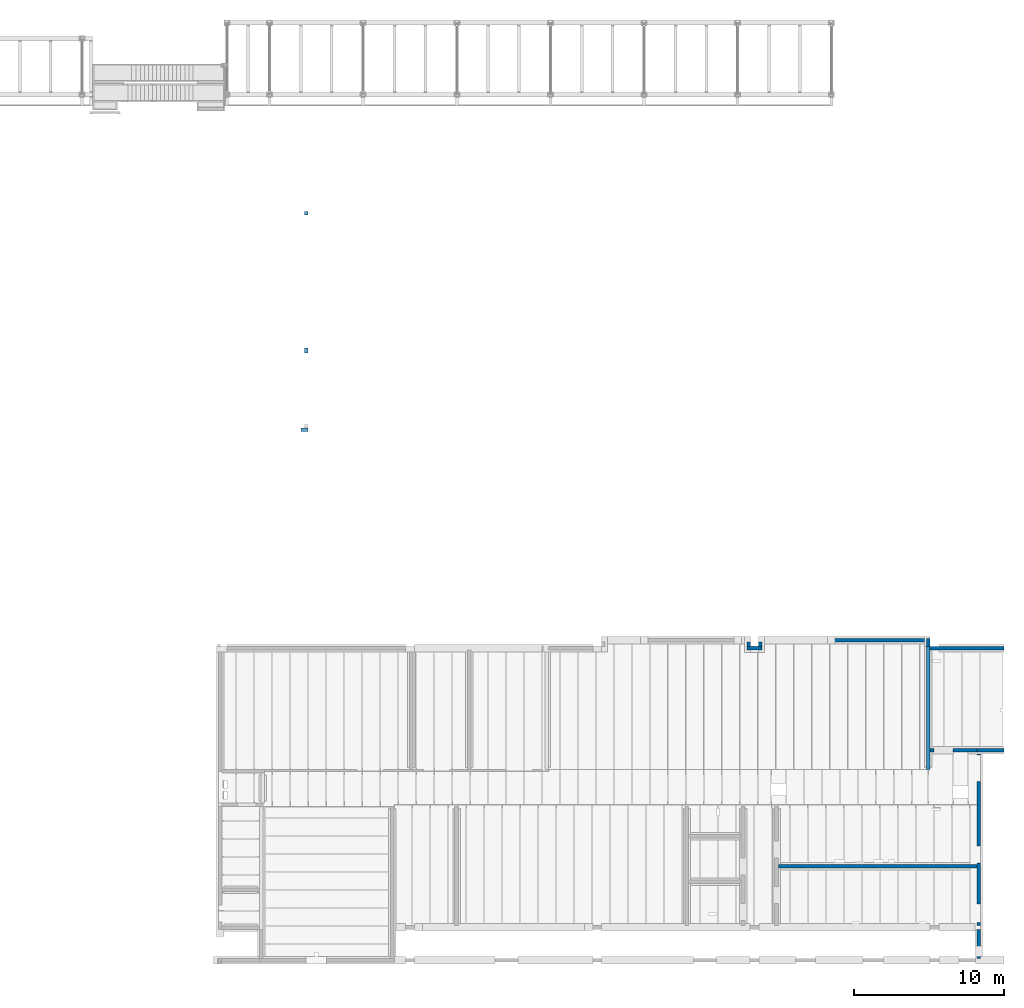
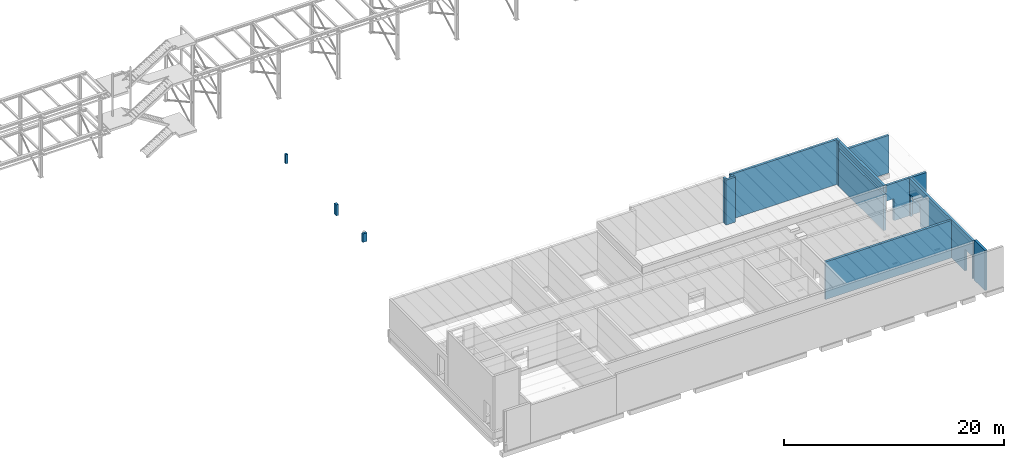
# One storey, part 12 of 24: 16 walls, 4 openings.
"""IFC2X3 building model written with IfcOpenShell, lengths in metres."""

from ifc_helpers import new_model, entity, si_unit, converted_unit, derived_unit, frame, frame_2d, origin, origin_with_axes, place, context, subcontext, project, spatial, polyline, rectangle, outline, extrude, material, layer, layer_set, layer_usage, element, save


model = new_model("IFC2X3")

# Units and contexts
model_context = context("Model", 3, precision=1e-05, world=origin())
body_context = subcontext(model_context, "Body", "Model", "MODEL_VIEW")
ifc_project = project(units=[si_unit("LENGTHUNIT", "METRE"), si_unit("AREAUNIT", "SQUARE_METRE"), si_unit("VOLUMEUNIT", "CUBIC_METRE"), si_unit("MASSUNIT", "GRAM", prefix="KILO"), converted_unit("PLANEANGLEUNIT", "DEGREE", entity("IfcPlaneAngleMeasure", 0.0174532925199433), si_unit("PLANEANGLEUNIT", "RADIAN"), dimensions=[0, 0, 0, 0, 0, 0, 0]), derived_unit("THERMALTRANSMITTANCEUNIT", [(si_unit("POWERUNIT", "WATT"), 1), (si_unit("THERMODYNAMICTEMPERATUREUNIT", "KELVIN"), -1), (si_unit("LENGTHUNIT", "METRE"), -2)]), derived_unit("VOLUMETRICFLOWRATEUNIT", [(si_unit("LENGTHUNIT", "METRE"), 3), (converted_unit("TIMEUNIT", "hour", entity("IfcTimeMeasure", 3600.0), si_unit("TIMEUNIT", "SECOND"), dimensions=[0, 0, 1, 0, 0, 0, 0]), -1), (si_unit("LENGTHUNIT", "METRE"), -1)])], contexts=[model_context])

# Site, building, storey
site_placement = place(None, origin())
site = spatial("IfcSite", under=ifc_project, at=site_placement, Name="TWP_Speiseverteilzentrum SBW VZ II", CompositionType="ELEMENT")
building_placement = place(site_placement, origin())
building = spatial("IfcBuilding", under=site, at=building_placement, Name="Speiseverteilzentrum SBW VZ II", CompositionType="ELEMENT")
storey_placement = place(building_placement, frame((0.0, 0.0, 0.6957)))
storey = spatial("IfcBuildingStorey", under=building, at=storey_placement, Name="EG_Technik_FFB", CompositionType="ELEMENT", Elevation=0.6957)

# Wall, openings
ifc_material_1 = material(Name="KS-XL-16-1.8/DM")
ifc_layer_1 = layer(ifc_material_1, 0.24)
ifc_layer_set_1 = layer_set([ifc_layer_1], Name="HI_WAN_MWK_0,240_xxx")
ifc_layer_usage_1 = layer_usage(ifc_layer_set_1, "AXIS2", "POSITIVE", -0.24)
wall_1_placement = place(storey_placement, frame((119.72, 43.5849999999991, -0.19), z_axis=(0.0, 0.0, 1.0), x_axis=(0.0, -1.0, 0.0)))
wall_1 = element("IfcWallStandardCase", 1, at=wall_1_placement, inside=storey, material=ifc_layer_usage_1, Name="HI_WAN_MWK_0,240_xxx", context=body_context, shape_type="SweptSolid", body=[
    extrude(rectangle(XDim=11.575000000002, YDim=0.24, at=frame_2d((5.787500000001, 0.12), x_axis=(1.0, 0.0))), origin_with_axes(), (0.0, 0.0, 1.0), 4.19),
])
opening_1_placement = place(wall_1_placement, frame((1.95999999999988, 0.24, 0.0), z_axis=(0.0, -1.0, 0.0), x_axis=(0.0, 0.0, 1.0)))
element("IfcOpeningElement", 2, at=opening_1_placement, cuts=wall_1, Name="Mauerwerkswand", ObjectType="SOLIDWALL", context=body_context, shape_type="SweptSolid", body=[
    extrude(outline(polyline([(2.45, 1.76), (2.45, 0.0), (0.0, 0.0), (0.0, 1.76), (2.45, 1.76)])), origin_with_axes(), (0.0, 0.0, 1.0), 0.24),
])
opening_2_placement = place(wall_1_placement, frame((10.115000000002, 0.0, 0.0), z_axis=(0.0, 1.0, 0.0), x_axis=(0.0, 0.0, 1.0)))
element("IfcOpeningElement", 3, at=opening_2_placement, cuts=wall_1, Name="Mauerwerkswand", ObjectType="SOLIDWALL", context=body_context, shape_type="SweptSolid", body=[
    extrude(outline(polyline([(2.45, 1.26), (2.45, 0.0), (0.0, 0.0), (0.0, 1.26), (2.45, 1.26)])), origin_with_axes(), (0.0, 0.0, 1.0), 0.24),
])
opening_3_placement = place(wall_1_placement, frame((6.2450000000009, 0.0, 0.0), z_axis=(0.0, 1.0, 0.0), x_axis=(0.0, 0.0, 1.0)))
element("IfcOpeningElement", 4, at=opening_3_placement, cuts=wall_1, Name="Mauerwerkswand", ObjectType="SOLIDWALL", context=body_context, shape_type="SweptSolid", body=[
    extrude(outline(polyline([(2.45, 1.13500000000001), (2.45, 0.0), (0.0, 0.0), (0.0, 1.13500000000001), (2.45, 1.13500000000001)])), origin_with_axes(), (0.0, 0.0, 1.0), 0.24),
])

# Walls
ifc_material_2 = material(Name="KS-XL-16-1.8/DM")
ifc_layer_2 = layer(ifc_material_2, 0.24)
ifc_layer_set_2 = layer_set([ifc_layer_2], Name="HI_WAN_MWK_0,240_xxx")
ifc_layer_usage_2 = layer_usage(ifc_layer_set_2, "AXIS2", "POSITIVE", -0.24)
wall_2_placement = place(storey_placement, frame((105.384999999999, 50.6299999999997, 0.0), z_axis=(0.0, 0.0, 1.0), x_axis=(-1.0, 0.0, 0.0)))
element("IfcWallStandardCase", 5, at=wall_2_placement, inside=storey, material=ifc_layer_usage_2, Name="HI_WAN_MWK_0,240_xxx", context=body_context, shape_type="SweptSolid", body=[
    extrude(rectangle(XDim=1.0199999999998, YDim=0.24, at=frame_2d((0.509999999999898, 0.12), x_axis=(1.0, 0.0))), origin_with_axes(), (0.0, 0.0, 1.0), 5.0),
])
ifc_material_3 = material(Name="KS-XL-16-1.8/DM")
ifc_layer_3 = layer(ifc_material_3, 0.24)
ifc_layer_set_3 = layer_set([ifc_layer_3], Name="HI_WAN_MWK_0,240_xxx")
ifc_layer_usage_3 = layer_usage(ifc_layer_set_3, "AXIS2", "POSITIVE", -0.24)
wall_3_placement = place(storey_placement, frame((121.520000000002, 50.6299999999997, -0.19), z_axis=(0.0, 0.0, 1.0), x_axis=(-1.0, 0.0, 0.0)))
element("IfcWallStandardCase", 6, at=wall_3_placement, inside=storey, material=ifc_layer_usage_3, Name="HI_WAN_MWK_0,240_xxx", context=body_context, shape_type="SweptSolid", body=[
    extrude(rectangle(XDim=4.93000000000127, YDim=0.24, at=frame_2d((2.46500000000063, 0.12), x_axis=(1.0, 0.0))), origin_with_axes(), (0.0, 0.0, 1.0), 4.19),
])
ifc_material_4 = material(Name="KS-XL-16-1.8/DM")
ifc_layer_4 = layer(ifc_material_4, 0.24)
ifc_layer_set_4 = layer_set([ifc_layer_4], Name="HI_WAN_MWK_0,240_xxx")
ifc_layer_usage_4 = layer_usage(ifc_layer_set_4, "AXIS2", "POSITIVE", -0.24)
wall_4_placement = place(storey_placement, frame((116.35, 51.1799999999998, 0.0), z_axis=(0.0, 0.0, 1.0), x_axis=(-1.0, -6.49349184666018e-16, 0.0)))
element("IfcWallStandardCase", 7, at=wall_4_placement, inside=storey, material=ifc_layer_usage_4, Name="HI_WAN_MWK_0,240_xxx", context=body_context, shape_type="SweptSolid", body=[
    extrude(rectangle(XDim=11.2050000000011, YDim=0.24, at=frame_2d((5.60250000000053, 0.12), x_axis=(1.0, 0.0))), origin_with_axes(), (0.0, 0.0, 1.0), 5.0),
])
ifc_material_5 = material(Name="KS-XL-16-1.8/DM")
ifc_layer_5 = layer(ifc_material_5, 0.239999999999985)
ifc_layer_set_5 = layer_set([ifc_layer_5], Name="HI_WAN_MWK_0,240_xxx")
ifc_layer_usage_5 = layer_usage(ifc_layer_set_5, "AXIS2", "POSITIVE", -0.24)
wall_5_placement = place(storey_placement, frame((104.364999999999, 50.94, 0.0), z_axis=(0.0, 0.0, 1.0), x_axis=(-3.2859163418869e-13, -1.0, 0.0)))
element("IfcWallStandardCase", 8, at=wall_5_placement, inside=storey, material=ifc_layer_usage_5, Name="HI_WAN_MWK_0,240_xxx", context=body_context, shape_type="SweptSolid", body=[
    extrude(rectangle(XDim=0.310000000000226, YDim=0.239999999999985, at=frame_2d((0.155000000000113, 0.119999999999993), x_axis=(1.0, 0.0))), origin_with_axes(), (0.0, 0.0, 1.0), 5.0),
])
ifc_material_6 = material(Name="KS-XL-16-1.8/DM")
ifc_layer_6 = layer(ifc_material_6, 0.239999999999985)
ifc_layer_set_6 = layer_set([ifc_layer_6], Name="HI_WAN_MWK_0,240_xxx")
ifc_layer_usage_6 = layer_usage(ifc_layer_set_6, "AXIS2", "POSITIVE", -0.24)
wall_6_placement = place(storey_placement, frame((105.144999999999, 50.94, 0.0), z_axis=(0.0, 0.0, 1.0), x_axis=(-3.2859163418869e-13, -1.0, 0.0)))
element("IfcWallStandardCase", 9, at=wall_6_placement, inside=storey, material=ifc_layer_usage_6, Name="HI_WAN_MWK_0,240_xxx", context=body_context, shape_type="SweptSolid", body=[
    extrude(rectangle(XDim=0.310000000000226, YDim=0.239999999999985, at=frame_2d((0.155000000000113, 0.119999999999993), x_axis=(1.0, 0.0))), origin_with_axes(), (0.0, 0.0, 1.0), 5.0),
])
ifc_material_7 = material(Name="KS-XL-16-1.8/DM")
ifc_layer_7 = layer(ifc_material_7, 0.24)
ifc_layer_set_7 = layer_set([ifc_layer_7], Name="HI_WAN_MWK_0,240_xxx")
ifc_layer_usage_7 = layer_usage(ifc_layer_set_7, "AXIS2", "POSITIVE", -0.24)
wall_7_placement = place(storey_placement, frame((119.72, 36.1049999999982, -0.19), z_axis=(0.0, 0.0, 1.0), x_axis=(-1.0, 0.0, 0.0)))
element("IfcWallStandardCase", 10, at=wall_7_placement, inside=storey, material=ifc_layer_usage_7, Name="HI_WAN_MWK_0,240_xxx", context=body_context, shape_type="SweptSolid", body=[
    extrude(rectangle(XDim=13.26, YDim=0.24, at=frame_2d((6.63, 0.12), x_axis=(1.0, 0.0))), origin_with_axes(), (0.0, 0.0, 1.0), 4.17),
])
ifc_material_8 = material(Name="KS-XL-16-1.8/DM")
ifc_layer_8 = layer(ifc_material_8, 0.24)
ifc_layer_set_8 = layer_set([ifc_layer_8], Name="HI_WAN_MWK_0,240_xxx")
ifc_layer_usage_8 = layer_usage(ifc_layer_set_8, "AXIS2", "POSITIVE", -0.24)
wall_8_placement = place(storey_placement, frame((116.59, 42.4399999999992, 0.0), z_axis=(0.0, 0.0, 1.0), x_axis=(0.0, 1.0, 0.0)))
element("IfcWallStandardCase", 11, at=wall_8_placement, inside=storey, material=ifc_layer_usage_8, Name="HI_WAN_MWK_0,240_xxx", context=body_context, shape_type="SweptSolid", body=[
    extrude(rectangle(XDim=8.19000000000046, YDim=0.24, at=frame_2d((4.09500000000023, 0.12), x_axis=(1.0, 0.0))), origin_with_axes(), (0.0, 0.0, 1.0), 4.0),
])
ifc_material_9 = material(Name="KS-XL-16-1.8/DM")
ifc_layer_9 = layer(ifc_material_9, 0.240000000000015)
ifc_layer_set_9 = layer_set([ifc_layer_9], Name="HI_WAN_MWK_0,240_xxx")
ifc_layer_usage_9 = layer_usage(ifc_layer_set_9, "AXIS2", "POSITIVE", -0.24)
wall_9_placement = place(storey_placement, frame((116.35, 51.1799999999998, 0.0), z_axis=(0.0, 0.0, 1.0), x_axis=(0.0, -1.0, 0.0)))
element("IfcWallStandardCase", 12, at=wall_9_placement, inside=storey, material=ifc_layer_usage_9, Name="HI_WAN_MWK_0,240_xxx", context=body_context, shape_type="SweptSolid", body=[
    extrude(rectangle(XDim=0.550000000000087, YDim=0.240000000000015, at=frame_2d((0.275000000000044, 0.120000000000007), x_axis=(1.0, 0.0))), origin_with_axes(), (0.0, 0.0, 1.0), 5.0),
])

# Wall, opening
ifc_material_10 = material(Name="KS-XL-16-1.8/DM")
ifc_layer_10 = layer(ifc_material_10, 0.24)
ifc_layer_set_10 = layer_set([ifc_layer_10], Name="HI_WAN_MWK_0,240_xxx")
ifc_layer_usage_10 = layer_usage(ifc_layer_set_10, "AXIS2", "POSITIVE", -0.24)
wall_10_placement = place(storey_placement, frame((116.59, 43.5849999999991, -0.19)))
wall_10 = element("IfcWallStandardCase", 13, at=wall_10_placement, inside=storey, material=ifc_layer_usage_10, Name="HI_WAN_MWK_0,240_xxx", context=body_context, shape_type="SweptSolid", body=[
    extrude(rectangle(XDim=3.12999999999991, YDim=0.24, at=frame_2d((1.56499999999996, 0.12), x_axis=(1.0, 0.0))), origin_with_axes(), (0.0, 0.0, 1.0), 4.19),
])
opening_4_placement = place(wall_10_placement, frame((0.249999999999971, 0.0, 0.0), z_axis=(0.0, 1.0, 0.0), x_axis=(0.0, 0.0, 1.0)))
element("IfcOpeningElement", 14, at=opening_4_placement, cuts=wall_10, Name="Mauerwerkswand", ObjectType="SOLIDWALL", context=body_context, shape_type="SweptSolid", body=[
    extrude(outline(polyline([(2.45, 1.26), (2.45, 0.0), (0.0, 0.0), (0.0, 1.26), (2.45, 1.26)])), origin_with_axes(), (0.0, 0.0, 1.0), 0.24),
])

# Walls
ifc_material_11 = material(Name="KS-XL-16-1.8/DM")
ifc_layer_11 = layer(ifc_material_11, 0.24)
ifc_layer_set_11 = layer_set([ifc_layer_11], Name="HI_WAN_MWK_0,240_xxx")
ifc_layer_usage_11 = layer_usage(ifc_layer_set_11, "AXIS2", "POSITIVE", -0.24)
wall_11_placement = place(storey_placement, frame((119.72, 43.5849999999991, -0.19)))
element("IfcWallStandardCase", 15, at=wall_11_placement, inside=storey, material=ifc_layer_usage_11, Name="HI_WAN_MWK_0,240_xxx", context=body_context, shape_type="SweptSolid", body=[
    extrude(rectangle(XDim=1.80000000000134, YDim=0.24, at=frame_2d((0.900000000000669, 0.12), x_axis=(1.0, 0.0))), origin_with_axes(), (0.0, 0.0, 1.0), 4.19),
])
ifc_material_12 = material(Name="KS-XL-16-1.8/DM")
ifc_layer_12 = layer(ifc_material_12, 0.24)
ifc_layer_set_12 = layer_set([ifc_layer_12], Name="HI_WAN_MWK_0,240_xxx")
ifc_layer_usage_12 = layer_usage(ifc_layer_set_12, "AXIS2", "POSITIVE", -0.24)
wall_12_placement = place(storey_placement, frame((119.96, 29.8299999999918, -0.19), z_axis=(0.0, 0.0, 1.0), x_axis=(0.0, 1.0, 0.0)))
element("IfcWallStandardCase", 16, at=wall_12_placement, inside=storey, material=ifc_layer_usage_12, Name="HI_WAN_MWK_0,240_xxx", context=body_context, shape_type="SweptSolid", body=[
    extrude(rectangle(XDim=1.94000000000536, YDim=0.24, at=frame_2d((0.970000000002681, 0.12), x_axis=(1.0, 0.0))), origin_with_axes(), (0.0, 0.0, 1.0), 4.455),
])
ifc_material_13 = material(Name="KS-XL-16-1.8/DM")
ifc_layer_13 = layer(ifc_material_13, 0.24)
ifc_layer_set_13 = layer_set([ifc_layer_13], Name="HI_WAN_MWK_0,240_xxx")
ifc_layer_usage_13 = layer_usage(ifc_layer_set_13, "AXIS2", "POSITIVE", -0.24)
wall_13_placement = place(storey_placement, frame((116.35, 50.6299999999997, 4.265), z_axis=(0.0, 0.0, 1.0), x_axis=(0.0, -1.0, 0.0)))
element("IfcWallStandardCase", 17, at=wall_13_placement, inside=storey, material=ifc_layer_usage_13, Name="HI_WAN_MWK_0,240_xxx", context=body_context, shape_type="SweptSolid", body=[
    extrude(rectangle(XDim=8.19000000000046, YDim=0.24, at=frame_2d((4.09500000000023, 0.12), x_axis=(1.0, 0.0))), origin_with_axes(), (0.0, 0.0, 1.0), 0.735),
])
ifc_material_14 = material(Name="KS-XL-16-1.8/DM")
ifc_layer_14 = layer(ifc_material_14, 0.24)
ifc_layer_set_14 = layer_set([ifc_layer_14], Name="HI_WAN_MWK_0,240_xxx")
ifc_layer_usage_14 = layer_usage(ifc_layer_set_14, "AXIS2", "POSITIVE", -0.24)
wall_14_placement = place(storey_placement, frame((75.07437918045, 65.2345685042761, -0.365), z_axis=(0.0, 0.0, 1.0), x_axis=(-1.0, 0.0, 0.0)))
element("IfcWallStandardCase", 18, at=wall_14_placement, inside=storey, material=ifc_layer_usage_14, Name="HI_WAN_MWK_0,240_xxx", context=body_context, shape_type="SweptSolid", body=[
    extrude(rectangle(XDim=0.459994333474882, YDim=0.24, at=frame_2d((0.229997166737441, 0.12), x_axis=(1.0, 0.0))), origin_with_axes(), (0.0, 0.0, 1.0), 0.93),
])
ifc_material_15 = material(Name="KS-XL-16-1.8/DM")
ifc_layer_15 = layer(ifc_material_15, 0.24)
ifc_layer_set_15 = layer_set([ifc_layer_15], Name="HI_WAN_MWK_0,240_xxx")
ifc_layer_usage_15 = layer_usage(ifc_layer_set_15, "AXIS2", "POSITIVE", -0.24)
wall_15_placement = place(storey_placement, frame((74.8350000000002, 70.5751031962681, -0.665), z_axis=(0.0, 0.0, 1.0), x_axis=(0.0, -1.0, 0.0)))
element("IfcWallStandardCase", 19, at=wall_15_placement, inside=storey, material=ifc_layer_usage_15, Name="HI_WAN_MWK_0,240_xxx", context=body_context, shape_type="SweptSolid", body=[
    extrude(rectangle(XDim=0.35, YDim=0.24, at=frame_2d((0.175, 0.12), x_axis=(1.0, 0.0))), origin_with_axes(), (0.0, 0.0, 1.0), 1.23),
])
ifc_material_16 = material(Name="KS-XL-16-1.8/DM")
ifc_layer_16 = layer(ifc_material_16, 0.24)
ifc_layer_set_16 = layer_set([ifc_layer_16], Name="HI_WAN_MWK_0,240_xxx")
ifc_layer_usage_16 = layer_usage(ifc_layer_set_16, "AXIS2", "POSITIVE", -0.24)
wall_16_placement = place(storey_placement, frame((74.83437918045, 79.667433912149, -0.465), z_axis=(0.0, 0.0, 1.0), x_axis=(0.0, -1.0, 0.0)))
element("IfcWallStandardCase", 20, at=wall_16_placement, inside=storey, material=ifc_layer_usage_16, Name="HI_WAN_MWK_0,240_xxx", context=body_context, shape_type="SweptSolid", body=[
    extrude(rectangle(XDim=0.24, YDim=0.24, at=frame_2d((0.12, 0.12), x_axis=(1.0, 0.0))), origin_with_axes(), (0.0, 0.0, 1.0), 1.03),
])

save(model, "model.ifc")
